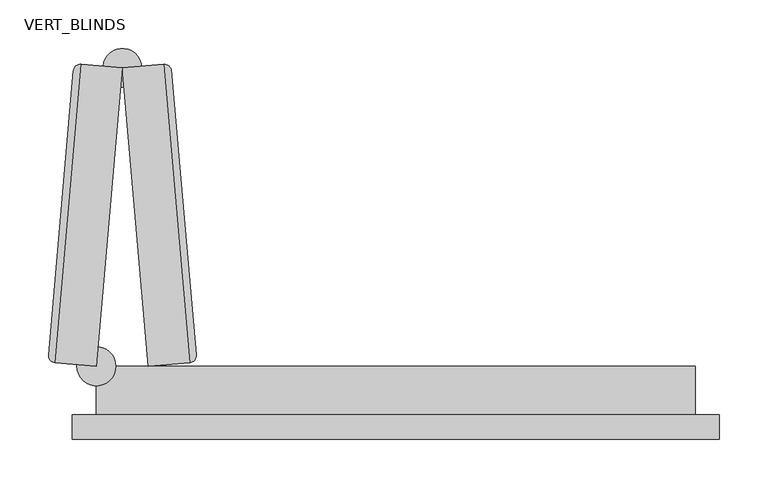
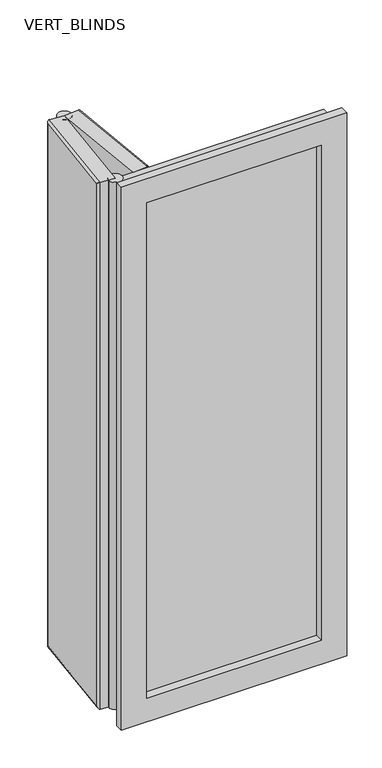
"""IFC4 building model written with IfcOpenShell, lengths in millimetres: plate geometry, CURTAIN PANEL VODA STYLE BIFOLDING : VERT_BLINDS."""

from ifc_helpers import new_model, si_unit, point, frame, frame_2d, origin, place, context, project, spatial, polyline, circle_curve, ellipse_curve, trimmed, segment, composite_curve, outline, extrude, faceted_brep, source, transform, mapped, element, save
from ifc_brep_helpers import plane_surface, cylinder_surface, advanced_brep


def vert_blinds_bcc53d70(model_context):
    return source(origin(), model_context, "Body", "SolidModel", [
        advanced_brep(
        [(-308.3333333, 50.0, 1675.0), (-281.4603127, 357.1600319, 1675.0), (-323.7985873, 360.864151, 1675.0), (-350.671608, 53.7041191, 1675.0), (-281.4603127, 357.1600319, 25.0), (-308.3333333, 50.0, 25.0), (-350.671608, 53.7041191, 25.0), (-323.7985873, 360.864151, 25.0), (-357.4894002, 61.8292474, 32.5), (-357.4894002, 61.8292474, 1667.5), (-331.9237156, 354.0463588, 1667.5), (-331.9237156, 354.0463588, 32.5)],
        [
            (0, 1),
            (1, 2),
            (2, 3),
            (3, 0),
            (4, 5),
            (5, 6),
            (6, 7),
            (7, 4),
            (1, 4),
            (7, 2),
            (8, 9),
            (9, 10),
            (10, 11),
            (11, 8),
            (5, 0),
            (3, 6),
            (8, 6, ellipse_curve(frame((-350.0179399, 61.1755793, 32.5), z_axis=(-0.06162841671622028, -0.7044160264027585, 0.7071067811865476), x_axis=(-0.06162841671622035, -0.7044160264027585, -0.7071067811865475)), 10.6066017, 7.5)),
            (3, 9, ellipse_curve(frame((-350.0179399, 61.1755793, 1667.5), z_axis=(-0.0616284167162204, -0.7044160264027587, -0.7071067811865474), x_axis=(0.06162841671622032, 0.7044160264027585, -0.7071067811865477)), 10.6066017, 7.5)),
            (11, 7, ellipse_curve(frame((-324.4522554, 353.3926907, 32.5), z_axis=(-0.061628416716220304, -0.7044160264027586, -0.7071067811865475), x_axis=(0.061628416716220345, 0.7044160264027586, -0.7071067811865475)), 10.6066017, 7.5)),
            (10, 2, ellipse_curve(frame((-324.4522554, 353.3926907, 1667.5), z_axis=(0.0616284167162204, 0.7044160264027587, -0.7071067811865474), x_axis=(0.06162841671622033, 0.7044160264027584, 0.7071067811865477)), 10.6066017, 7.5)),
        ],
        [
            plane_surface(frame((-331.2700476, 361.517819, 1675.0), z_axis=(0.0, 0.0, 1.0), x_axis=(-0.9961946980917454, 0.0871557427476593, 0.0))),
            plane_surface(frame((-331.2700476, 361.517819, 25.0), z_axis=(0.0, 0.0, -1.0), x_axis=(0.9961946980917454, -0.0871557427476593, 0.0))),
            plane_surface(frame((-281.4603127, 357.1600319, 1675.0), z_axis=(0.0871557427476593, 0.9961946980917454, 0.0), x_axis=(0.0, 0.0, -1.0))),
            plane_surface(frame((-331.2700476, 361.517819, 1675.0), z_axis=(-0.9961946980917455, 0.08715574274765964, 0.0), x_axis=(0.0, 0.0, -1.0))),
            plane_surface(frame((-358.1430682, 54.3577871, 1675.0), z_axis=(-0.08715574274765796, -0.9961946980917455, 0.0), x_axis=(0.0, 0.0, -1.0))),
            plane_surface(frame((-308.3333333, 50.0, 1675.0), z_axis=(0.9961946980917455, -0.08715574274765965, 0.0), x_axis=(0.0, 0.0, -1.0))),
            cylinder_surface(frame((-350.0179399, 61.1755793, 1675.0), z_axis=(0.0, 0.0, -1.0000000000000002), x_axis=(0.9961946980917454, -0.08715574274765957, 0.0)), 7.5),
            cylinder_surface(frame((-350.671608, 53.7041191, 32.5), z_axis=(0.08715574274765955, 0.9961946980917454, 0.0), x_axis=(0.9961946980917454, -0.08715574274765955, 0.0)), 7.5),
            cylinder_surface(frame((-324.4522554, 353.3926907, 25.0), z_axis=(0.0, 0.0, 1.0000000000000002), x_axis=(0.9961946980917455, -0.08715574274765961, 0.0)), 7.5),
            cylinder_surface(frame((-323.7985873, 360.864151, 1667.5), z_axis=(-0.08715574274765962, -0.9961946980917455, 0.0), x_axis=(0.9961946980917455, -0.08715574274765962, 0.0)), 7.5),
        ],
        [
            (0, [[1, 2, 3, 4]]),
            (1, [[5, 6, 7, 8]]),
            (2, [[9, -8, 10, -2]]),
            (3, [[11, 12, 13, 14]]),
            (4, [[15, -4, 16, -6]]),
            (5, [[-1, -15, -5, -9]]),
            (6, [[17, -16, 18, -11]]),
            (7, [[-17, -14, 19, -7]]),
            (8, [[-19, -13, 20, -10]]),
            (9, [[-18, -3, -20, -12]]),
        ],
    ),
        advanced_brep(
        [(-281.4603127, 357.1600319, 1675.0), (-254.587292, 50.0, 1675.0), (-212.2490173, 53.7041191, 1675.0), (-239.122038, 360.864151, 1675.0), (-254.587292, 50.0, 25.0), (-281.4603127, 357.1600319, 25.0), (-239.122038, 360.864151, 25.0), (-212.2490173, 53.7041191, 25.0), (-230.9969097, 354.0463588, 32.5), (-230.9969097, 354.0463588, 1667.5), (-205.4312251, 61.8292474, 1667.5), (-205.4312251, 61.8292474, 32.5)],
        [
            (0, 1),
            (1, 2),
            (2, 3),
            (3, 0),
            (4, 5),
            (5, 6),
            (6, 7),
            (7, 4),
            (1, 4),
            (7, 2),
            (8, 9),
            (9, 10),
            (10, 11),
            (11, 8),
            (5, 0),
            (3, 6),
            (8, 6, ellipse_curve(frame((-238.4683699, 353.3926907, 32.5), z_axis=(-0.06162841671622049, 0.7044160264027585, 0.7071067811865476), x_axis=(-0.06162841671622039, 0.7044160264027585, -0.7071067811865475)), 10.6066017, 7.5)),
            (3, 9, ellipse_curve(frame((-238.4683699, 353.3926907, 1667.5), z_axis=(-0.061628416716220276, 0.7044160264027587, -0.7071067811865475), x_axis=(0.06162841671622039, -0.7044160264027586, -0.7071067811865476)), 10.6066017, 7.5)),
            (11, 7, ellipse_curve(frame((-212.9026854, 61.1755793, 32.5), z_axis=(-0.061628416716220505, 0.7044160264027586, -0.7071067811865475), x_axis=(0.06162841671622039, -0.7044160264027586, -0.7071067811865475)), 10.6066017, 7.5)),
            (10, 2, ellipse_curve(frame((-212.9026854, 61.1755793, 1667.5), z_axis=(0.061628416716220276, -0.7044160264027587, -0.7071067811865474), x_axis=(0.061628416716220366, -0.7044160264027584, 0.7071067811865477)), 10.6066017, 7.5)),
        ],
        [
            plane_surface(frame((-204.7775571, 54.3577871, 1675.0), z_axis=(0.0, 0.0, 1.0), x_axis=(0.9961946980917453, 0.08715574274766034, 0.0))),
            plane_surface(frame((-204.7775571, 54.3577871, 25.0), z_axis=(0.0, 0.0, -1.0), x_axis=(-0.9961946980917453, -0.08715574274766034, 0.0))),
            plane_surface(frame((-254.587292, 50.0, 1675.0), z_axis=(0.08715574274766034, -0.9961946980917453, 0.0), x_axis=(0.0, 0.0, -1.0))),
            plane_surface(frame((-204.7775571, 54.3577871, 1675.0), z_axis=(0.9961946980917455, 0.08715574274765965, 0.0), x_axis=(0.0, 0.0, -1.0))),
            plane_surface(frame((-231.6505777, 361.517819, 1675.0), z_axis=(-0.08715574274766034, 0.9961946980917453, 0.0), x_axis=(0.0, 0.0, -1.0))),
            plane_surface(frame((-281.4603127, 357.1600319, 1675.0), z_axis=(-0.9961946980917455, -0.08715574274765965, 0.0), x_axis=(0.0, 0.0, -1.0))),
            cylinder_surface(frame((-238.4683699, 353.3926907, 1675.0), z_axis=(0.0, 0.0, -1.0000000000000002), x_axis=(-0.9961946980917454, -0.08715574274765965, 0.0)), 7.5),
            cylinder_surface(frame((-239.122038, 360.864151, 32.5), z_axis=(0.08715574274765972, -0.9961946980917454, 0.0), x_axis=(-0.9961946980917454, -0.08715574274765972, 0.0)), 7.5),
            cylinder_surface(frame((-212.9026854, 61.1755793, 25.0), z_axis=(0.0, 0.0, 1.0000000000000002), x_axis=(-0.9961946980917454, -0.08715574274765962, 0.0)), 7.5),
            cylinder_surface(frame((-212.2490173, 53.7041191, 1667.5), z_axis=(-0.08715574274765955, 0.9961946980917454, 0.0), x_axis=(-0.9961946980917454, -0.08715574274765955, 0.0)), 7.5),
        ],
        [
            (0, [[1, 2, 3, 4]]),
            (1, [[5, 6, 7, 8]]),
            (2, [[9, -8, 10, -2]]),
            (3, [[11, 12, 13, 14]]),
            (4, [[15, -4, 16, -6]]),
            (5, [[-1, -15, -5, -9]]),
            (6, [[17, -16, 18, -11]]),
            (7, [[-17, -14, 19, -7]]),
            (8, [[-19, -13, 20, -10]]),
            (9, [[-18, -3, -20, -12]]),
        ],
    ),
        extrude(outline(composite_curve([segment(trimmed(circle_curve(frame_2d((-308.3333333, 50.0)), 20.0), [point((-328.3333333, 50.0))], [point((-288.3333333, 50.0))], False, "CARTESIAN"), True, "CONTINUOUS"), segment(trimmed(circle_curve(frame_2d((-308.3333333, 50.0)), 20.0), [point((-288.3333333, 50.0))], [point((-328.3333333, 50.0))], False, "CARTESIAN"), True, "CONTINUOUS")], self_intersect=False)), frame((0.0, 0.0, 25.0), z_axis=(0.0, 0.0, 1.0), x_axis=(1.0, 0.0, 0.0)), (0.0, 0.0, 1.0), 1650.0),
        extrude(outline(composite_curve([segment(trimmed(circle_curve(frame_2d((-281.4603127, 357.1600319)), 20.0), [point((-283.2034275, 337.2361379))], [point((-279.7171978, 377.0839259))], False, "CARTESIAN"), True, "CONTINUOUS"), segment(trimmed(circle_curve(frame_2d((-281.4603127, 357.1600319)), 20.0), [point((-279.7171978, 377.0839259))], [point((-283.2034275, 337.2361379))], False, "CARTESIAN"), True, "CONTINUOUS")], self_intersect=False)), frame((0.0, 0.0, 25.0), z_axis=(0.0, 0.0, 1.0), x_axis=(1.0, 0.0, 0.0)), (0.0, 0.0, 1.0), 1650.0),
        extrude(outline(polyline([(-258.3333333, 24.0), (258.3333333, 24.0), (258.3333333, 0.0), (-258.3333333, 0.0), (-258.3333333, 24.0)])), frame((0.0, 0.0, 75.0), z_axis=(0.0, 0.0, 1.0), x_axis=(1.0, 0.0, 0.0)), (0.0, 0.0, 1.0), 1550.0),
        faceted_brep([(-258.3333333, 50.0, 1625.0), (-258.3333333, -25.0, 1625.0), (-258.3333333, -25.0, 75.0), (-258.3333333, 50.0, 75.0), (-333.3333333, -25.0, 1700.0), (-333.3333333, 0.0, 1700.0), (-333.3333333, 0.0, 0.0), (-333.3333333, -25.0, 0.0), (-308.3333333, 0.0, 1675.0), (-308.3333333, 50.0, 1675.0), (-308.3333333, 50.0, 25.0), (-308.3333333, 0.0, 25.0), (258.3333333, -25.0, 75.0), (258.3333333, 50.0, 75.0), (333.3333333, 0.0, 0.0), (333.3333333, -25.0, 0.0), (308.3333333, 50.0, 25.0), (308.3333333, 0.0, 25.0), (258.3333333, -25.0, 1625.0), (258.3333333, 50.0, 1625.0), (333.3333333, 0.0, 1700.0), (333.3333333, -25.0, 1700.0), (308.3333333, 50.0, 1675.0), (308.3333333, 0.0, 1675.0)], [[[0, 1, 2, 3]], [[4, 5, 6, 7]], [[8, 9, 10, 11]], [[3, 2, 12, 13]], [[7, 6, 14, 15]], [[11, 10, 16, 17]], [[13, 12, 18, 19]], [[15, 14, 20, 21]], [[17, 16, 22, 23]], [[9, 22, 16, 10], [3, 13, 19, 0]], [[19, 18, 1, 0]], [[7, 15, 21, 4], [1, 18, 12, 2]], [[21, 20, 5, 4]], [[5, 20, 14, 6], [11, 17, 23, 8]], [[23, 22, 9, 8]]]),
    ])


if __name__ == "__main__":
    model = new_model("IFC4")
    model_context = context("Model", 3, world=origin())
    ifc_project = project(units=[si_unit("LENGTHUNIT", "METRE", prefix="MILLI")], contexts=[model_context])
    site = spatial("IfcSite", under=ifc_project)
    building = spatial("IfcBuilding", under=site)
    placement = place(None, origin())
    vert_blinds_shape = vert_blinds_bcc53d70(model_context)
    element("IfcPlate", 1, ObjectType="CURTAIN PANEL VODA STYLE BIFOLDING : VERT_BLINDS", at=placement, inside=building, context=model_context, shape_type="MappedRepresentation", body=[
        mapped(vert_blinds_shape, transform((0.0, 0.0, 0.0), x_axis=(1.0, 0.0, 0.0), y_axis=(0.0, 1.0, 0.0), z_axis=(0.0, 0.0, 1.0))),
    ])
    save(model, "model.ifc")
